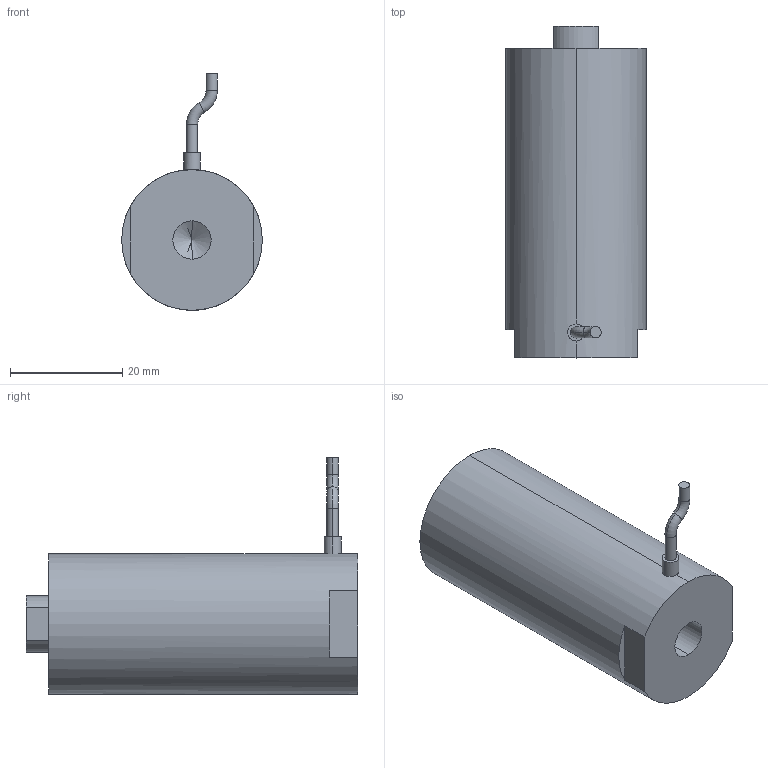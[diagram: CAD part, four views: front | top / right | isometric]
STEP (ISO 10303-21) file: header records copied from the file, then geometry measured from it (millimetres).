
FILE_DESCRIPTION (( 'STEP AP203' ), '1' );
FILE_NAME ('ﾄﾚﾂﾝﾎﾆﾊｽ40VS25.STEP', '2021-07-08T07:15:01', ( 'ﾎ｢ﾈ橆ﾃｻｧ' ), ( 'ﾎ｢ﾈ晥ｫﾋｾ' ), 'SwSTEP 2.0', 'SolidWorks 2016', '' );
FILE_SCHEMA (( 'CONFIG_CONTROL_DESIGN' ));
Products named in the file (1): 囀蹟恇宒40VS25
Bounding box: 25 x 59 x 42.06 mm (x, y, z)
Volume: 26626.9 mm3; surface area: 5928.1 mm2
Topology: 1 solids, 1 shells, 941 faces, 2552 edges, 1694 vertices
Faces by surface type: bspline 511, plane 316, cylinder 106, torus 4, cone 4
Entity records: 44239 total; most frequent: CARTESIAN_POINT 25079, ORIENTED_EDGE 5088, EDGE_CURVE 2544, DIRECTION 1991, B_SPLINE_CURVE_WITH_KNOTS 1693, VERTEX_POINT 1692, EDGE_LOOP 1028, FACE_OUTER_BOUND 941
